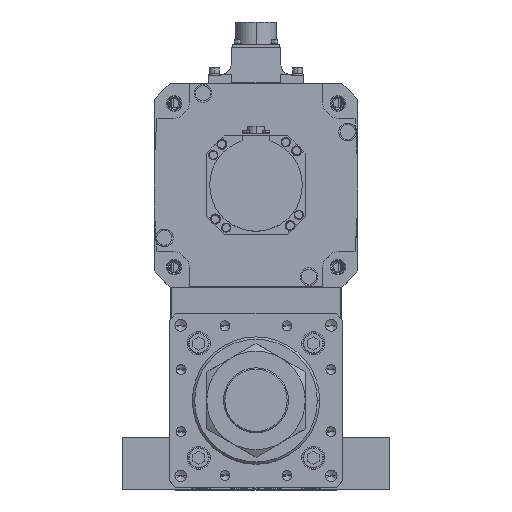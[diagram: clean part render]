
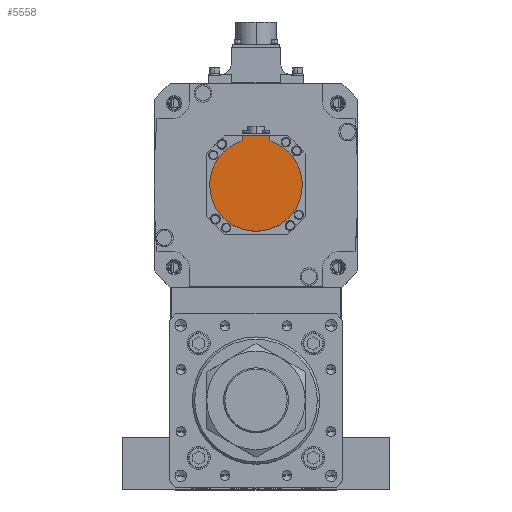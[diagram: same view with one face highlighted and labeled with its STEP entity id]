
A CAD part, top view. The second image highlights one B-rep face of the part: STEP entity #5558.
In plain terms, the highlighted planar face has unit normal (0, 0, 1) as drawn and (0, 0, -1) by its records, which use the part's own axes.
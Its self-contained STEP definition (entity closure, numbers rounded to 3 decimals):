
#1455 = EDGE_CURVE ( 'NONE', #24467, #10356, #19254, .T. ) ;
#1664 = CARTESIAN_POINT ( 'NONE',  ( 0., 0., -162.5 ) ) ;
#1842 = CARTESIAN_POINT ( 'NONE',  ( 0., 0., -162.5 ) ) ;
#3112 = LINE ( 'NONE', #51969, #21341 ) ;
#3312 = EDGE_CURVE ( 'NONE', #10356, #27692, #41904, .T. ) ;
#5486 = DIRECTION ( 'NONE',  ( 1., 0., 0. ) ) ;
#5558 = ADVANCED_FACE ( 'NONE', ( #9798 ), #10927, .F. ) ;
#6861 = ORIENTED_EDGE ( 'NONE', *, *, #42922, .F. ) ;
#8402 = DIRECTION ( 'NONE',  ( 0., 1., 0. ) ) ;
#8848 = CIRCLE ( 'NONE', #12474, 40. ) ;
#9798 = FACE_OUTER_BOUND ( 'NONE', #23653, .T. ) ;
#10356 = VERTEX_POINT ( 'NONE', #37496 ) ;
#10927 = PLANE ( 'NONE',  #23906 ) ;
#12211 = EDGE_CURVE ( 'NONE', #45464, #25598, #15597, .T. ) ;
#12474 = AXIS2_PLACEMENT_3D ( 'NONE', #39736, #15307, #44299 ) ;
#13964 = AXIS2_PLACEMENT_3D ( 'NONE', #1664, #18229, #5486 ) ;
#14428 = DIRECTION ( 'NONE',  ( -1., 0., 0. ) ) ;
#15307 = DIRECTION ( 'NONE',  ( 0., 0., 1. ) ) ;
#15597 = LINE ( 'NONE', #19312, #44945 ) ;
#16385 = DIRECTION ( 'NONE',  ( 1., 0., 0. ) ) ;
#18229 = DIRECTION ( 'NONE',  ( 0., 0., 1. ) ) ;
#19254 = LINE ( 'NONE', #50500, #31663 ) ;
#19312 = CARTESIAN_POINT ( 'NONE',  ( -12., -40.329, -162.5 ) ) ;
#19974 = ORIENTED_EDGE ( 'NONE', *, *, #3312, .F. ) ;
#20037 = CARTESIAN_POINT ( 'NONE',  ( -12., -38.158, -162.5 ) ) ;
#21341 = VECTOR ( 'NONE', #14428, 1000. ) ;
#22226 = ORIENTED_EDGE ( 'NONE', *, *, #12211, .T. ) ;
#22363 = CARTESIAN_POINT ( 'NONE',  ( -40., 0., -162.5 ) ) ;
#23653 = EDGE_LOOP ( 'NONE', ( #22226, #52259, #6861, #19974, #43604, #43796 ) ) ;
#23906 = AXIS2_PLACEMENT_3D ( 'NONE', #40087, #52291, #16385 ) ;
#24467 = VERTEX_POINT ( 'NONE', #37118 ) ;
#25598 = VERTEX_POINT ( 'NONE', #20037 ) ;
#27692 = VERTEX_POINT ( 'NONE', #28343 ) ;
#28343 = CARTESIAN_POINT ( 'NONE',  ( 40., 0., -162.5 ) ) ;
#30943 = CIRCLE ( 'NONE', #38651, 40. ) ;
#31663 = VECTOR ( 'NONE', #8402, 1000. ) ;
#31810 = VERTEX_POINT ( 'NONE', #22363 ) ;
#37118 = CARTESIAN_POINT ( 'NONE',  ( 12., -42.5, -162.5 ) ) ;
#37496 = CARTESIAN_POINT ( 'NONE',  ( 12., -38.158, -162.5 ) ) ;
#38174 = CARTESIAN_POINT ( 'NONE',  ( -12., -42.5, -162.5 ) ) ;
#38651 = AXIS2_PLACEMENT_3D ( 'NONE', #1842, #38671, #43407 ) ;
#38671 = DIRECTION ( 'NONE',  ( 0., 0., 1. ) ) ;
#39736 = CARTESIAN_POINT ( 'NONE',  ( 0., 0., -162.5 ) ) ;
#40087 = CARTESIAN_POINT ( 'NONE',  ( 0., -1.249, -162.5 ) ) ;
#41146 = EDGE_CURVE ( 'NONE', #24467, #45464, #3112, .T. ) ;
#41904 = CIRCLE ( 'NONE', #13964, 40. ) ;
#42155 = EDGE_CURVE ( 'NONE', #31810, #25598, #8848, .T. ) ;
#42922 = EDGE_CURVE ( 'NONE', #27692, #31810, #30943, .T. ) ;
#43407 = DIRECTION ( 'NONE',  ( 1., 0., 0. ) ) ;
#43604 = ORIENTED_EDGE ( 'NONE', *, *, #1455, .F. ) ;
#43796 = ORIENTED_EDGE ( 'NONE', *, *, #41146, .T. ) ;
#44299 = DIRECTION ( 'NONE',  ( 1., 0., 0. ) ) ;
#44945 = VECTOR ( 'NONE', #48110, 1000. ) ;
#45464 = VERTEX_POINT ( 'NONE', #38174 ) ;
#48110 = DIRECTION ( 'NONE',  ( 0., 1., 0. ) ) ;
#50500 = CARTESIAN_POINT ( 'NONE',  ( 12., -1.249, -162.5 ) ) ;
#51969 = CARTESIAN_POINT ( 'NONE',  ( 0., -42.5, -162.5 ) ) ;
#52259 = ORIENTED_EDGE ( 'NONE', *, *, #42155, .F. ) ;
#52291 = DIRECTION ( 'NONE',  ( 0., 0., 1. ) ) ;
